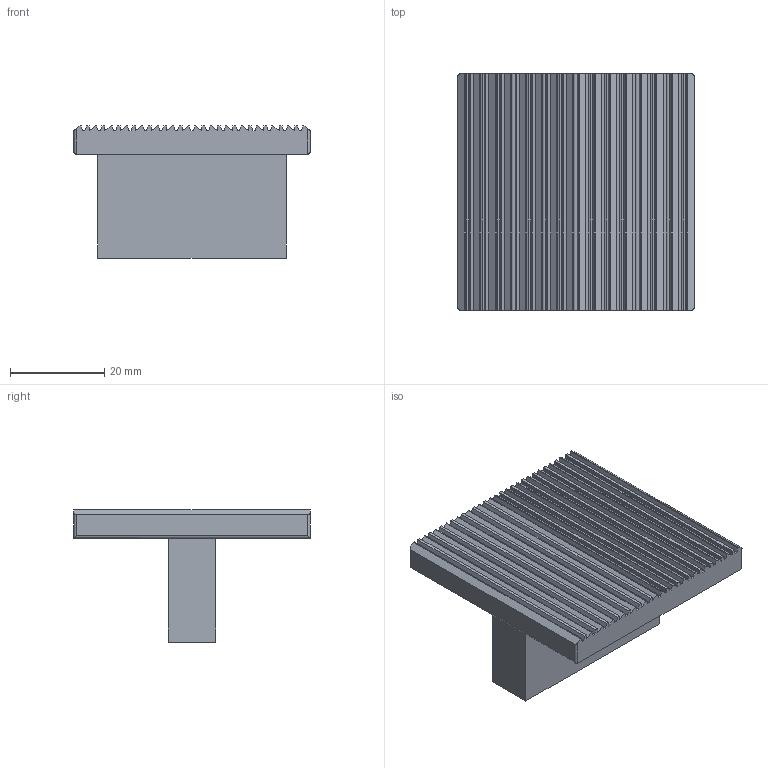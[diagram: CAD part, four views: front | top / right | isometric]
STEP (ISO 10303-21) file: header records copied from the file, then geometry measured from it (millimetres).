
FILE_DESCRIPTION( ( '' ), '1' );
FILE_NAME( 'D:/temp/hettich_stp/hettich/prodecor_handles/deluxe/9113399.stp', '2013-02-26T12:44:00', ( '' ), ( '' ), ' ', ' ', ' ' );
FILE_SCHEMA( ( 'automotive_design' ) );
Length unit declared in the file: millimetre
Products named in the file (1): 1
Bounding box: 50 x 50 x 28 mm (x, y, z)
Volume: 22489.2 mm3; surface area: 10448.8 mm2
Topology: 1 solids, 1 shells, 127 faces, 362 edges, 240 vertices
Faces by surface type: plane 117, cylinder 10
Entity records: 8110 total; most frequent: STYLED_ITEM 730, PRESENTATION_STYLE_ASSIGNMENT 730, CARTESIAN_POINT 730, COLOUR_RGB 730, ORIENTED_EDGE 724, DIRECTION 634, EDGE_CURVE 362, CURVE_STYLE 362
